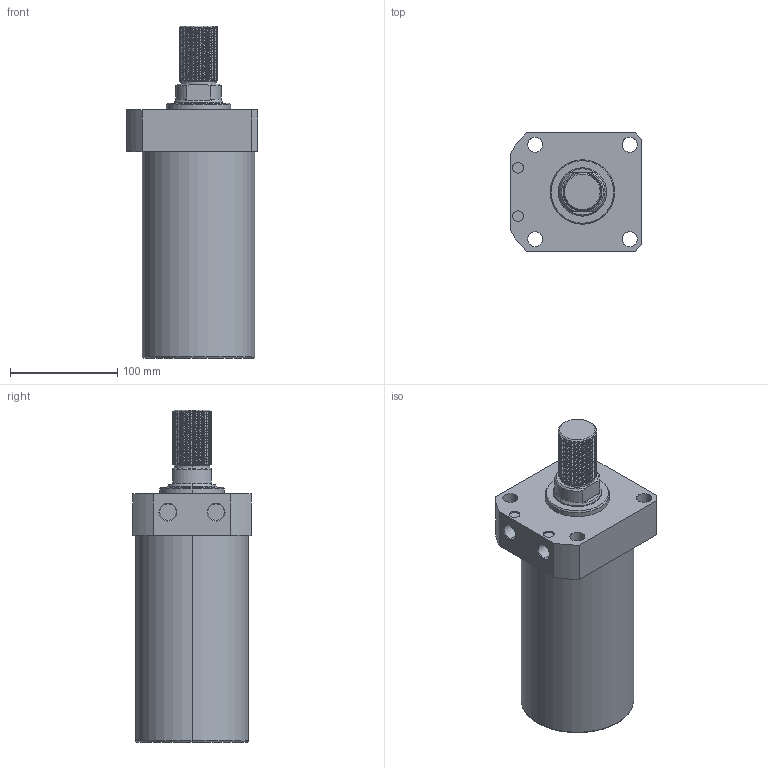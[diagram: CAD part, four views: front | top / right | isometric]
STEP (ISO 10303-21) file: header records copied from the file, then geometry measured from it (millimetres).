
FILE_DESCRIPTION (( 'STEP AP214' ), '1' );
FILE_NAME ('CLLR-105CT-145.STEP', '2020-01-10T06:04:21', ( 'Windows' ), ( 'Microsoft' ), 'SwSTEP 2.0', 'SolidWorks 2015', '' );
FILE_SCHEMA (( 'AUTOMOTIVE_DESIGN' ));
Length unit declared in the file: millimetre
Products named in the file (1): CLLR-105CT-145
Bounding box: 122 x 110 x 309 mm (x, y, z)
Volume: 2235161.3 mm3; surface area: 127396.5 mm2
Topology: 1 solids, 1 shells, 137 faces, 366 edges, 239 vertices
Faces by surface type: cylinder 96, plane 20, cone 17, torus 2, bspline 2
Entity records: 7987 total; most frequent: CARTESIAN_POINT 4838, ORIENTED_EDGE 732, DIRECTION 568, EDGE_CURVE 366, VERTEX_POINT 239, AXIS2_PLACEMENT_3D 217, EDGE_LOOP 153, FACE_OUTER_BOUND 137
